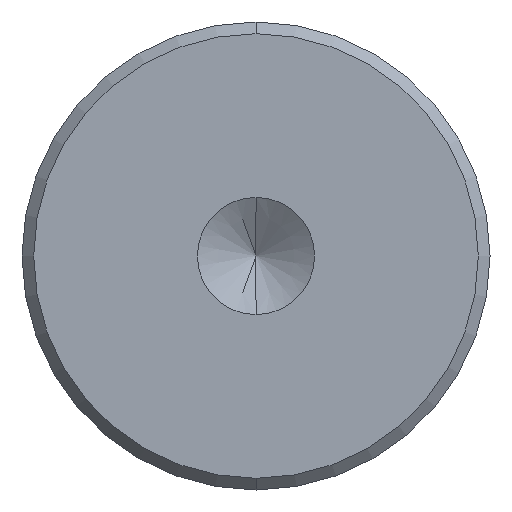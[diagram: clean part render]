
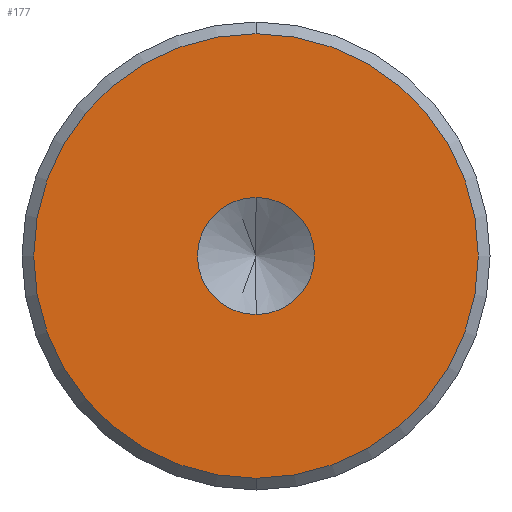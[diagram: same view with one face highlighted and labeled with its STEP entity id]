
A CAD part, front view. The second image highlights one B-rep face of the part: STEP entity #177.
In plain terms, the highlighted planar face has unit normal (0, -1, 0).
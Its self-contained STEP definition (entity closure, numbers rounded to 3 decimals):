
#14 = FACE_BOUND ( 'NONE', #18, .T. ) ;
#15 = AXIS2_PLACEMENT_3D ( 'NONE', #172, #250, #483 ) ;
#18 = EDGE_LOOP ( 'NONE', ( #138, #380 ) ) ;
#30 = VERTEX_POINT ( 'NONE', #202 ) ;
#32 = VERTEX_POINT ( 'NONE', #134 ) ;
#36 = CARTESIAN_POINT ( 'NONE',  ( 0., 0., 9.5 ) ) ;
#49 = CARTESIAN_POINT ( 'NONE',  ( 0., 0., 0. ) ) ;
#57 = EDGE_LOOP ( 'NONE', ( #295, #147 ) ) ;
#72 = AXIS2_PLACEMENT_3D ( 'NONE', #309, #467, #270 ) ;
#103 = CIRCLE ( 'NONE', #15, 2.5 ) ;
#106 = VERTEX_POINT ( 'NONE', #447 ) ;
#116 = DIRECTION ( 'NONE',  ( 0., 0., 1. ) ) ;
#118 = EDGE_CURVE ( 'NONE', #30, #106, #103, .T. ) ;
#122 = CIRCLE ( 'NONE', #498, 2.5 ) ;
#125 = DIRECTION ( 'NONE',  ( 0., 0., 1. ) ) ;
#134 = CARTESIAN_POINT ( 'NONE',  ( 0., 0., -9.5 ) ) ;
#138 = ORIENTED_EDGE ( 'NONE', *, *, #461, .F. ) ;
#147 = ORIENTED_EDGE ( 'NONE', *, *, #423, .T. ) ;
#149 = CIRCLE ( 'NONE', #205, 9.5 ) ;
#161 = CARTESIAN_POINT ( 'NONE',  ( 0., 0., 0. ) ) ;
#172 = CARTESIAN_POINT ( 'NONE',  ( 0., 0., 0. ) ) ;
#177 = ADVANCED_FACE ( 'NONE', ( #14, #331 ), #323, .F. ) ;
#202 = CARTESIAN_POINT ( 'NONE',  ( 0., 0., 2.5 ) ) ;
#203 = DIRECTION ( 'NONE',  ( 0., 1., 0. ) ) ;
#205 = AXIS2_PLACEMENT_3D ( 'NONE', #161, #242, #116 ) ;
#233 = CARTESIAN_POINT ( 'NONE',  ( 0., 0., 0. ) ) ;
#242 = DIRECTION ( 'NONE',  ( 0., -1., 0. ) ) ;
#250 = DIRECTION ( 'NONE',  ( 0., -1., 0. ) ) ;
#270 = DIRECTION ( 'NONE',  ( 0., 0., 1. ) ) ;
#279 = AXIS2_PLACEMENT_3D ( 'NONE', #49, #203, #125 ) ;
#295 = ORIENTED_EDGE ( 'NONE', *, *, #381, .T. ) ;
#309 = CARTESIAN_POINT ( 'NONE',  ( 0., 0., 0. ) ) ;
#323 = PLANE ( 'NONE',  #279 ) ;
#324 = CIRCLE ( 'NONE', #72, 9.5 ) ;
#331 = FACE_OUTER_BOUND ( 'NONE', #57, .T. ) ;
#345 = DIRECTION ( 'NONE',  ( 0., -1., 0. ) ) ;
#380 = ORIENTED_EDGE ( 'NONE', *, *, #118, .F. ) ;
#381 = EDGE_CURVE ( 'NONE', #450, #32, #149, .T. ) ;
#385 = DIRECTION ( 'NONE',  ( 0., 0., -1. ) ) ;
#423 = EDGE_CURVE ( 'NONE', #32, #450, #324, .T. ) ;
#447 = CARTESIAN_POINT ( 'NONE',  ( 0., 0., -2.5 ) ) ;
#450 = VERTEX_POINT ( 'NONE', #36 ) ;
#461 = EDGE_CURVE ( 'NONE', #106, #30, #122, .T. ) ;
#467 = DIRECTION ( 'NONE',  ( 0., -1., 0. ) ) ;
#483 = DIRECTION ( 'NONE',  ( 0., 0., -1. ) ) ;
#498 = AXIS2_PLACEMENT_3D ( 'NONE', #233, #345, #385 ) ;
